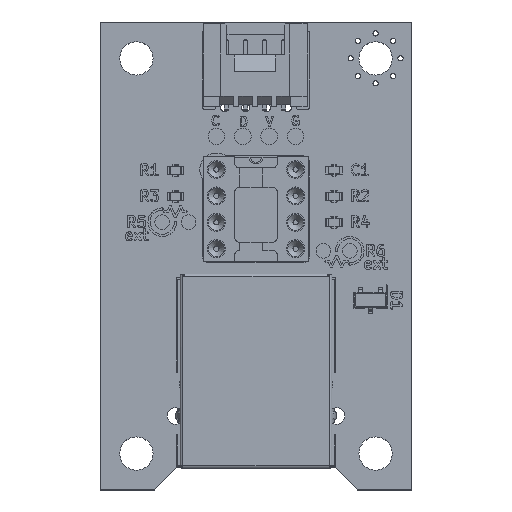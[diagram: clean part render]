
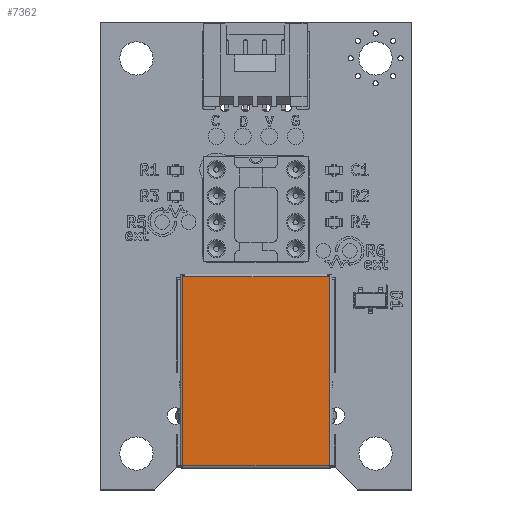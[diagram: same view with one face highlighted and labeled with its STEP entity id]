
A CAD part, top view. The second image highlights one B-rep face of the part: STEP entity #7362.
In plain terms, the highlighted planar face has unit normal (0, 0, 1) as drawn and (0, 1, 0) by its records, which use the part's own axes.
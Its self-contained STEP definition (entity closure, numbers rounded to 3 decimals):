
#3943 = VERTEX_POINT('',#3944);
#3944 = CARTESIAN_POINT('',(-6.959,7.719,-9.335));
#3953 = VERTEX_POINT('',#3954);
#3954 = CARTESIAN_POINT('',(-7.048,7.719,-9.335));
#3961 = EDGE_CURVE('',#3953,#3943,#3962,.T.);
#3962 = LINE('',#3963,#3964);
#3963 = CARTESIAN_POINT('',(7.303,7.719,-9.335));
#3964 = VECTOR('',#3965,1.);
#3965 = DIRECTION('',(1.,0.,0.));
#3976 = EDGE_CURVE('',#3977,#3943,#3979,.T.);
#3977 = VERTEX_POINT('',#3978);
#3978 = CARTESIAN_POINT('',(-6.959,7.719,-9.081));
#3979 = LINE('',#3980,#3981);
#3980 = CARTESIAN_POINT('',(-6.959,7.719,-9.081));
#3981 = VECTOR('',#3982,1.);
#3982 = DIRECTION('',(-0.,-0.,-1.));
#4000 = EDGE_CURVE('',#4001,#3977,#4003,.T.);
#4001 = VERTEX_POINT('',#4002);
#4002 = CARTESIAN_POINT('',(-6.832,7.719,-9.081));
#4003 = LINE('',#4004,#4005);
#4004 = CARTESIAN_POINT('',(-7.048,7.719,-9.081));
#4005 = VECTOR('',#4006,1.);
#4006 = DIRECTION('',(-1.,0.,0.));
#4161 = VERTEX_POINT('',#4162);
#4162 = CARTESIAN_POINT('',(6.833,7.719,-9.081));
#4186 = EDGE_CURVE('',#4187,#4161,#4189,.T.);
#4187 = VERTEX_POINT('',#4188);
#4188 = CARTESIAN_POINT('',(6.96,7.719,-9.081));
#4189 = LINE('',#4190,#4191);
#4190 = CARTESIAN_POINT('',(7.049,7.719,-9.081));
#4191 = VECTOR('',#4192,1.);
#4192 = DIRECTION('',(-1.,0.,0.));
#4298 = EDGE_CURVE('',#4299,#4187,#4301,.T.);
#4299 = VERTEX_POINT('',#4300);
#4300 = CARTESIAN_POINT('',(6.96,7.719,-9.335));
#4301 = LINE('',#4302,#4303);
#4302 = CARTESIAN_POINT('',(6.96,7.719,-9.081));
#4303 = VECTOR('',#4304,1.);
#4304 = DIRECTION('',(0.,0.,1.));
#4323 = EDGE_CURVE('',#4299,#4324,#4326,.T.);
#4324 = VERTEX_POINT('',#4325);
#4325 = CARTESIAN_POINT('',(7.049,7.719,-9.335));
#4326 = LINE('',#4327,#4328);
#4327 = CARTESIAN_POINT('',(7.303,7.719,-9.335));
#4328 = VECTOR('',#4329,1.);
#4329 = DIRECTION('',(1.,0.,0.));
#6761 = VERTEX_POINT('',#6762);
#6762 = CARTESIAN_POINT('',(-7.048,7.719,9.081));
#6769 = EDGE_CURVE('',#3953,#6761,#6770,.T.);
#6770 = LINE('',#6771,#6772);
#6771 = CARTESIAN_POINT('',(-7.048,7.719,-9.335));
#6772 = VECTOR('',#6773,1.);
#6773 = DIRECTION('',(0.,0.,1.));
#7362 = ADVANCED_FACE('',(#7363),#7392,.T.);
#7363 = FACE_BOUND('',#7364,.T.);
#7364 = EDGE_LOOP('',(#7365,#7373,#7379,#7380,#7381,#7382,#7388,#7389,
    #7390,#7391));
#7365 = ORIENTED_EDGE('',*,*,#7366,.T.);
#7366 = EDGE_CURVE('',#6761,#7367,#7369,.T.);
#7367 = VERTEX_POINT('',#7368);
#7368 = CARTESIAN_POINT('',(7.049,7.719,9.081));
#7369 = LINE('',#7370,#7371);
#7370 = CARTESIAN_POINT('',(-7.048,7.719,9.081));
#7371 = VECTOR('',#7372,1.);
#7372 = DIRECTION('',(1.,0.,0.));
#7373 = ORIENTED_EDGE('',*,*,#7374,.T.);
#7374 = EDGE_CURVE('',#7367,#4324,#7375,.T.);
#7375 = LINE('',#7376,#7377);
#7376 = CARTESIAN_POINT('',(7.049,7.719,-9.335));
#7377 = VECTOR('',#7378,1.);
#7378 = DIRECTION('',(0.,0.,-1.));
#7379 = ORIENTED_EDGE('',*,*,#4323,.F.);
#7380 = ORIENTED_EDGE('',*,*,#4298,.T.);
#7381 = ORIENTED_EDGE('',*,*,#4186,.T.);
#7382 = ORIENTED_EDGE('',*,*,#7383,.T.);
#7383 = EDGE_CURVE('',#4161,#4001,#7384,.T.);
#7384 = LINE('',#7385,#7386);
#7385 = CARTESIAN_POINT('',(7.303,7.719,-9.081));
#7386 = VECTOR('',#7387,1.);
#7387 = DIRECTION('',(-1.,0.,0.));
#7388 = ORIENTED_EDGE('',*,*,#4000,.T.);
#7389 = ORIENTED_EDGE('',*,*,#3976,.T.);
#7390 = ORIENTED_EDGE('',*,*,#3961,.F.);
#7391 = ORIENTED_EDGE('',*,*,#6769,.T.);
#7392 = PLANE('',#7393);
#7393 = AXIS2_PLACEMENT_3D('',#7394,#7395,#7396);
#7394 = CARTESIAN_POINT('',(7.303,7.719,-9.335));
#7395 = DIRECTION('',(0.,1.,0.));
#7396 = DIRECTION('',(0.,0.,1.));
